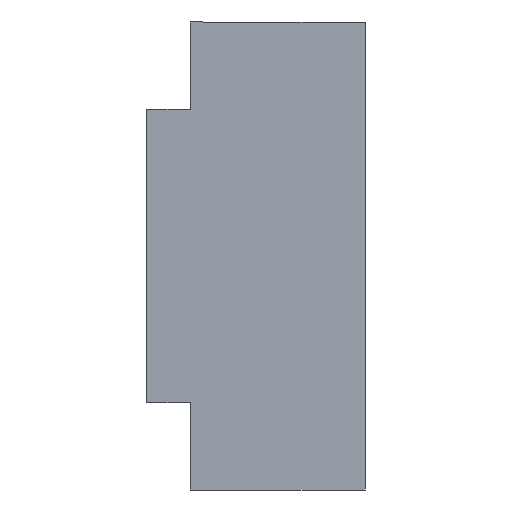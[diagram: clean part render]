
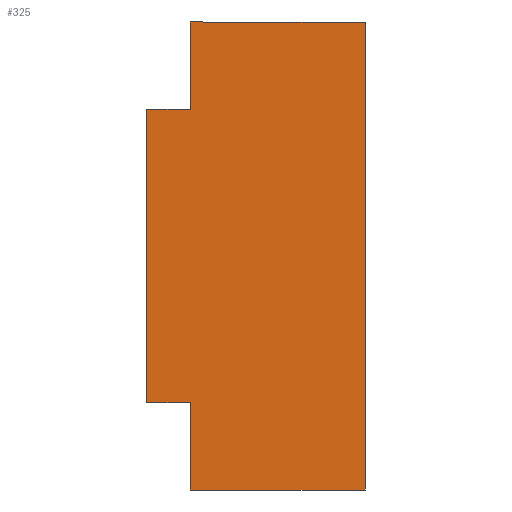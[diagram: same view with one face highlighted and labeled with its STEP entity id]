
A CAD part, front view. The second image highlights one B-rep face of the part: STEP entity #325.
In plain terms, the highlighted planar face has unit normal (0, -1, 0).
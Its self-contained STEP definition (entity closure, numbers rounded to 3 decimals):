
#45=PLANE('',#351);
#50=VECTOR('',#365,1.);
#56=VECTOR('',#378,1.);
#62=VECTOR('',#392,1.);
#70=VECTOR('',#411,1.);
#72=VECTOR('',#414,1.);
#74=VECTOR('',#417,1.);
#76=VECTOR('',#420,1.);
#77=VECTOR('',#422,1.);
#82=LINE('',#440,#50);
#88=LINE('',#458,#56);
#94=LINE('',#474,#62);
#102=LINE('',#494,#70);
#104=LINE('',#498,#72);
#106=LINE('',#502,#74);
#108=LINE('',#506,#76);
#109=LINE('',#508,#77);
#116=VERTEX_POINT('',#439);
#117=VERTEX_POINT('',#441);
#124=VERTEX_POINT('',#457);
#129=VERTEX_POINT('',#473);
#134=VERTEX_POINT('',#493);
#135=VERTEX_POINT('',#497);
#136=VERTEX_POINT('',#501);
#137=VERTEX_POINT('',#505);
#155=EDGE_CURVE('',#116,#117,#82,.T.);
#164=EDGE_CURVE('',#124,#116,#88,.T.);
#172=EDGE_CURVE('',#129,#124,#94,.T.);
#182=EDGE_CURVE('',#134,#129,#102,.T.);
#184=EDGE_CURVE('',#135,#134,#104,.T.);
#186=EDGE_CURVE('',#136,#135,#106,.T.);
#188=EDGE_CURVE('',#137,#136,#108,.T.);
#189=EDGE_CURVE('',#117,#137,#109,.T.);
#266=ORIENTED_EDGE('',*,*,#164,.F.);
#267=ORIENTED_EDGE('',*,*,#172,.F.);
#268=ORIENTED_EDGE('',*,*,#182,.F.);
#269=ORIENTED_EDGE('',*,*,#184,.F.);
#270=ORIENTED_EDGE('',*,*,#186,.F.);
#271=ORIENTED_EDGE('',*,*,#188,.F.);
#272=ORIENTED_EDGE('',*,*,#189,.F.);
#273=ORIENTED_EDGE('',*,*,#155,.F.);
#291=EDGE_LOOP('',(#266,#267,#268,#269,#270,#271,#272,#273));
#309=FACE_BOUND('',#291,.T.);
#325=ADVANCED_FACE('',(#309),#45,.F.);
#351=AXIS2_PLACEMENT_3D('',#509,#423,$);
#365=DIRECTION('',(1.,0.,0.));
#378=DIRECTION('',(0.,0.,1.));
#392=DIRECTION('',(-1.,0.,0.));
#411=DIRECTION('',(0.,0.,1.));
#414=DIRECTION('',(-1.,0.,0.));
#417=DIRECTION('',(0.,0.,-1.));
#420=DIRECTION('',(1.,0.,0.));
#422=DIRECTION('',(0.,0.,1.));
#423=DIRECTION('',(0.,1.,0.));
#439=CARTESIAN_POINT('',(15.24,-3.81,-5.398));
#440=CARTESIAN_POINT('',(15.24,-3.81,-5.398));
#441=CARTESIAN_POINT('',(16.51,-3.81,-5.398));
#457=CARTESIAN_POINT('',(15.24,-3.81,-13.907));
#458=CARTESIAN_POINT('',(15.24,-3.81,-13.907));
#473=CARTESIAN_POINT('',(16.51,-3.81,-13.907));
#474=CARTESIAN_POINT('',(16.51,-3.81,-13.907));
#493=CARTESIAN_POINT('',(16.51,-3.81,-16.447));
#494=CARTESIAN_POINT('',(16.51,-3.81,-16.447));
#497=CARTESIAN_POINT('',(21.59,-3.81,-16.447));
#498=CARTESIAN_POINT('',(21.59,-3.81,-16.447));
#501=CARTESIAN_POINT('',(21.59,-3.81,-2.858));
#502=CARTESIAN_POINT('',(21.59,-3.81,-2.858));
#505=CARTESIAN_POINT('',(16.51,-3.81,-2.858));
#506=CARTESIAN_POINT('',(16.51,-3.81,-2.858));
#508=CARTESIAN_POINT('',(16.51,-3.81,-5.398));
#509=CARTESIAN_POINT('',(18.577,-3.81,-9.652));
